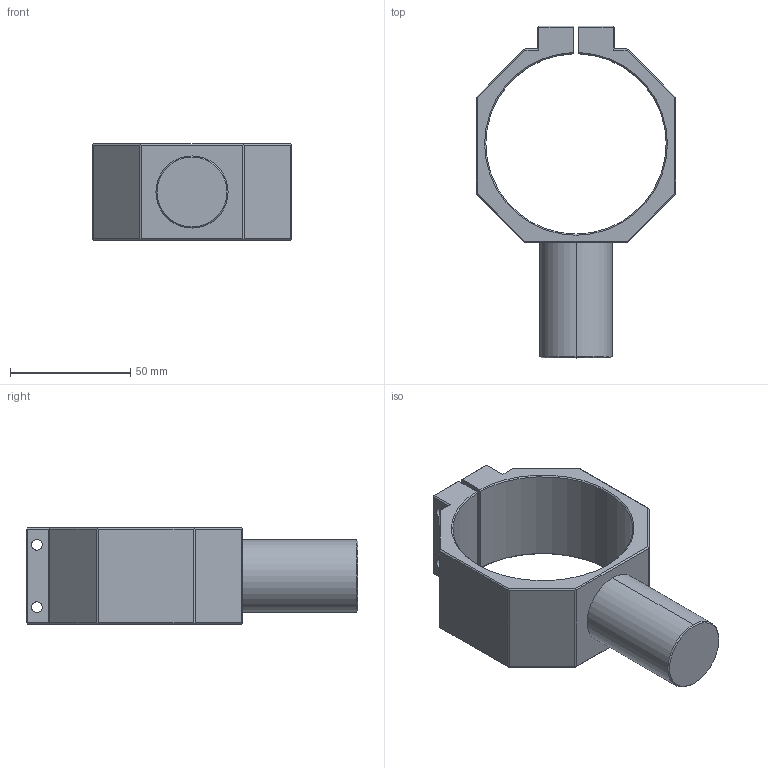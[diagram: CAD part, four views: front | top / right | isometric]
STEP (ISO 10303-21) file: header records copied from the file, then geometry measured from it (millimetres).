
FILE_DESCRIPTION (( 'STEP AP214' ), '1' );
FILE_NAME ('SCE-NR50.STEP', '2019-11-19T01:06:07', ( '微软用户' ), ( '微软中国' ), 'SwSTEP 2.0', 'SolidWorks 2016', '' );
FILE_SCHEMA (( 'AUTOMOTIVE_DESIGN' ));
Length unit declared in the file: millimetre
Products named in the file (1): SCE-NR50
Bounding box: 83 x 138 x 40 mm (x, y, z)
Volume: 102114.7 mm3; surface area: 30745.9 mm2
Topology: 1 solids, 1 shells, 93 faces, 236 edges, 148 vertices
Faces by surface type: plane 60, cylinder 19, cone 14
Entity records: 2816 total; most frequent: CARTESIAN_POINT 490, ORIENTED_EDGE 472, DIRECTION 472, EDGE_CURVE 236, VECTOR 180, LINE 180, VERTEX_POINT 148, AXIS2_PLACEMENT_3D 146
